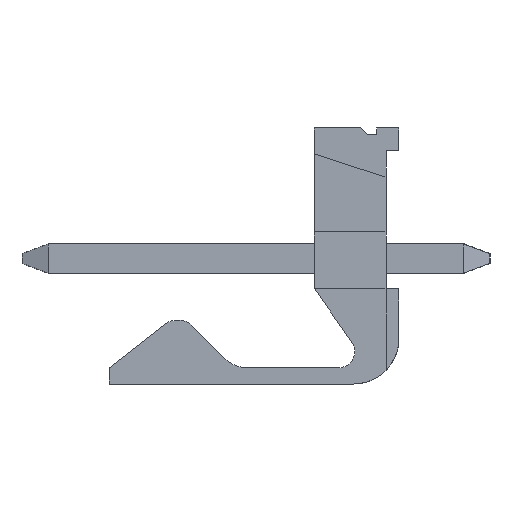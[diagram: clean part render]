
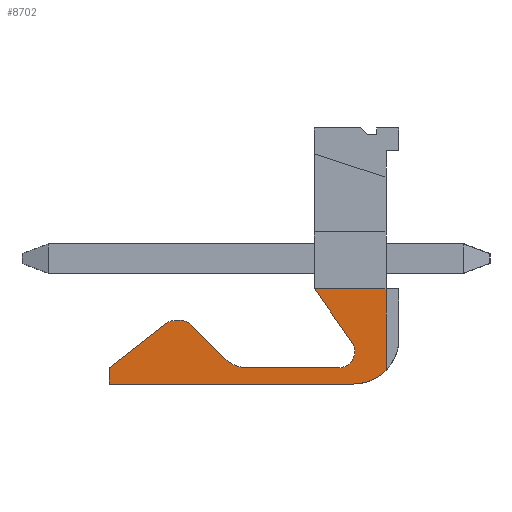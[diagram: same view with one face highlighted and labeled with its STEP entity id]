
A CAD part, left-side view. The second image highlights one B-rep face of the part: STEP entity #8702.
In plain terms, the highlighted planar face has unit normal (-1, 0, 0).
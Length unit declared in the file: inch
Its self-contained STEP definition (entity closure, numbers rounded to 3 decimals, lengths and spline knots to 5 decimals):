
#1945=DIRECTION('',(0.,1.,0.));
#1946=VECTOR('',#1945,0.11);
#1947=CARTESIAN_POINT('',(-0.702,-0.055,-0.12375));
#1948=LINE('',#1947,#1946);
#2993=DIRECTION('',(0.,0.,-1.));
#2994=VECTOR('',#2993,0.12549);
#2995=CARTESIAN_POINT('',(-0.702,-0.055,-0.12375));
#2996=LINE('',#2995,#2994);
#2997=CARTESIAN_POINT('',(-0.702,-0.005,-0.20025));
#2998=DIRECTION('',(1.,0.,0.));
#2999=DIRECTION('',(0.,-0.714,-0.7));
#3000=AXIS2_PLACEMENT_3D('',#2997,#2998,#2999);
#3002=DIRECTION('',(0.,1.,0.));
#3003=VECTOR('',#3002,0.376);
#3004=CARTESIAN_POINT('',(-0.702,-0.005,-0.27025));
#3005=LINE('',#3004,#3003);
#3006=DIRECTION('',(0.,0.,1.));
#3007=VECTOR('',#3006,0.025);
#3008=CARTESIAN_POINT('',(-0.702,0.371,-0.27025));
#3009=LINE('',#3008,#3007);
#3010=DIRECTION('',(0.,-0.788,0.616));
#3011=VECTOR('',#3010,0.10996);
#3012=CARTESIAN_POINT('',(-0.702,0.371,-0.24525));
#3013=LINE('',#3012,#3011);
#3014=CARTESIAN_POINT('',(-0.702,0.26896,-0.19725));
#3015=DIRECTION('',(1.,0.,0.));
#3016=DIRECTION('',(0.,0.616,0.788));
#3017=AXIS2_PLACEMENT_3D('',#3014,#3015,#3016);
#3019=DIRECTION('',(0.,-1.,0.));
#3020=VECTOR('',#3019,0.00694);
#3021=CARTESIAN_POINT('',(-0.702,0.26896,-0.17225));
#3022=LINE('',#3021,#3020);
#3023=CARTESIAN_POINT('',(-0.702,0.26202,-0.19725));
#3024=DIRECTION('',(1.,0.,0.));
#3025=DIRECTION('',(0.,0.,1.));
#3026=AXIS2_PLACEMENT_3D('',#3023,#3024,#3025);
#3028=DIRECTION('',(0.,-0.707,-0.707));
#3029=VECTOR('',#3028,0.07217);
#3030=CARTESIAN_POINT('',(-0.702,0.24434,-0.17957));
#3031=LINE('',#3030,#3029);
#3032=CARTESIAN_POINT('',(-0.702,0.15795,-0.19525));
#3033=DIRECTION('',(-1.,0.,0.));
#3034=DIRECTION('',(0.,0.707,-0.707));
#3035=AXIS2_PLACEMENT_3D('',#3032,#3033,#3034);
#3037=DIRECTION('',(0.,-1.,0.));
#3038=VECTOR('',#3037,0.14);
#3039=CARTESIAN_POINT('',(-0.702,0.15795,-0.24525));
#3040=LINE('',#3039,#3038);
#3041=CARTESIAN_POINT('',(-0.702,0.01795,-0.22025));
#3042=DIRECTION('',(-1.,0.,0.));
#3043=DIRECTION('',(0.,0.,-1.));
#3044=AXIS2_PLACEMENT_3D('',#3041,#3042,#3043);
#3046=DIRECTION('',(0.,0.574,0.819));
#3047=VECTOR('',#3046,0.1003);
#3048=CARTESIAN_POINT('',(-0.702,-0.00253,-0.20591));
#3049=LINE('',#3048,#3047);
#3191=CARTESIAN_POINT('',(-0.702,-0.005,-0.27025));
#3192=CARTESIAN_POINT('',(-0.702,0.371,-0.27025));
#3193=VERTEX_POINT('',#3191);
#3194=VERTEX_POINT('',#3192);
#3195=CARTESIAN_POINT('',(-0.702,0.371,-0.24525));
#3196=VERTEX_POINT('',#3195);
#3197=CARTESIAN_POINT('',(-0.702,0.28435,-0.17755));
#3198=VERTEX_POINT('',#3197);
#3199=CARTESIAN_POINT('',(-0.702,0.26896,-0.17225));
#3200=CARTESIAN_POINT('',(-0.702,0.26202,-0.17225));
#3201=VERTEX_POINT('',#3199);
#3202=VERTEX_POINT('',#3200);
#3203=CARTESIAN_POINT('',(-0.702,0.24434,-0.17957));
#3204=CARTESIAN_POINT('',(-0.702,0.1933,-0.23061));
#3205=VERTEX_POINT('',#3203);
#3206=VERTEX_POINT('',#3204);
#3207=CARTESIAN_POINT('',(-0.702,0.15795,-0.24525));
#3208=CARTESIAN_POINT('',(-0.702,0.01795,-0.24525));
#3209=VERTEX_POINT('',#3207);
#3210=VERTEX_POINT('',#3208);
#3211=CARTESIAN_POINT('',(-0.702,0.055,-0.12375));
#3212=VERTEX_POINT('',#3211);
#3217=CARTESIAN_POINT('',(-0.702,-0.00253,-0.20591));
#3218=VERTEX_POINT('',#3217);
#4035=CARTESIAN_POINT('',(-0.702,-0.055,-0.12375));
#4036=CARTESIAN_POINT('',(-0.702,-0.055,-0.24924));
#4037=VERTEX_POINT('',#4035);
#4038=VERTEX_POINT('',#4036);
#8681=CARTESIAN_POINT('',(-0.702,0.,0.));
#8682=DIRECTION('',(1.,0.,0.));
#8683=DIRECTION('',(0.,0.,-1.));
#8684=AXIS2_PLACEMENT_3D('',#8681,#8682,#8683);
#8685=PLANE('',#8684);
#8686=ORIENTED_EDGE('',*,*,#4339,.T.);
#8687=ORIENTED_EDGE('',*,*,#8190,.T.);
#8688=ORIENTED_EDGE('',*,*,#8389,.T.);
#8689=ORIENTED_EDGE('',*,*,#8417,.T.);
#8690=ORIENTED_EDGE('',*,*,#8445,.T.);
#8691=ORIENTED_EDGE('',*,*,#8473,.T.);
#8692=ORIENTED_EDGE('',*,*,#8501,.T.);
#8693=ORIENTED_EDGE('',*,*,#8529,.T.);
#8694=ORIENTED_EDGE('',*,*,#8557,.T.);
#8695=ORIENTED_EDGE('',*,*,#8585,.T.);
#8696=ORIENTED_EDGE('',*,*,#8613,.T.);
#8697=ORIENTED_EDGE('',*,*,#8639,.T.);
#8698=ORIENTED_EDGE('',*,*,#7176,.T.);
#8699=ORIENTED_EDGE('',*,*,#7112,.F.);
#8700=EDGE_LOOP('',(#8686,#8687,#8688,#8689,#8690,#8691,#8692,#8693,#8694,#8695,
#8696,#8697,#8698,#8699));
#8701=FACE_OUTER_BOUND('',#8700,.F.);
#8702=ADVANCED_FACE('',(#8701),#8685,.F.);
#3001=CIRCLE('',#3000,0.07);
#3018=CIRCLE('',#3017,0.025);
#3027=CIRCLE('',#3026,0.025);
#3036=CIRCLE('',#3035,0.05);
#3045=CIRCLE('',#3044,0.025);
#4339=EDGE_CURVE('',#4037,#4038,#2996,.T.);
#7112=EDGE_CURVE('',#4037,#3212,#1948,.T.);
#7176=EDGE_CURVE('',#3218,#3212,#3049,.T.);
#8190=EDGE_CURVE('',#4038,#3193,#3001,.T.);
#8389=EDGE_CURVE('',#3193,#3194,#3005,.T.);
#8417=EDGE_CURVE('',#3194,#3196,#3009,.T.);
#8445=EDGE_CURVE('',#3196,#3198,#3013,.T.);
#8473=EDGE_CURVE('',#3198,#3201,#3018,.T.);
#8501=EDGE_CURVE('',#3201,#3202,#3022,.T.);
#8529=EDGE_CURVE('',#3202,#3205,#3027,.T.);
#8557=EDGE_CURVE('',#3205,#3206,#3031,.T.);
#8585=EDGE_CURVE('',#3206,#3209,#3036,.T.);
#8613=EDGE_CURVE('',#3209,#3210,#3040,.T.);
#8639=EDGE_CURVE('',#3210,#3218,#3045,.T.);
